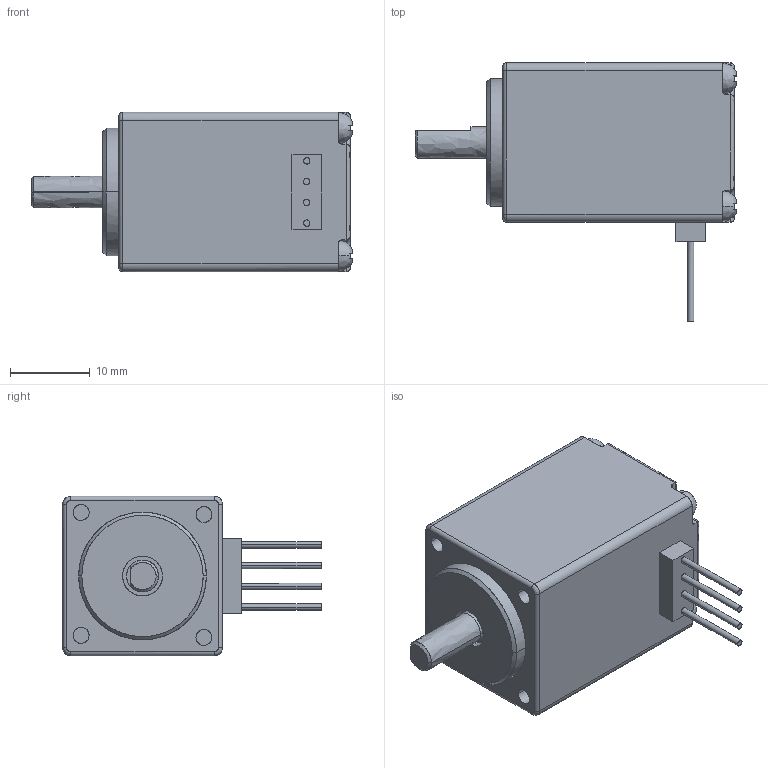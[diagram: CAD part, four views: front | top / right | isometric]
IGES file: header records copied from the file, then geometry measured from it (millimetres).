
Global section: file name: C:\DOCUME~1\PC001\BM-20M-C.igs; preprocessor: I-DEAS 3D IGES Translator 12; date: 20100628.115525; units: millimetre
Bounding box: 40.33 x 32.4 x 20 mm (x, y, z)
Surface area: 3602.9 mm2 (no closed solid volume)
Topology: 0 solids, 0 shells, 196 faces, 1069 edges, 1079 vertices
Faces by surface type: bspline 196
